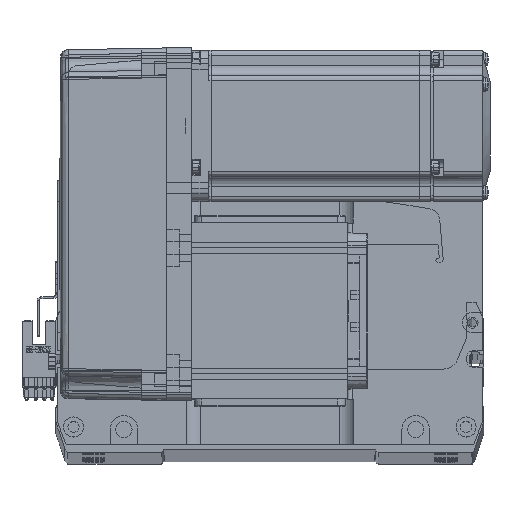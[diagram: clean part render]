
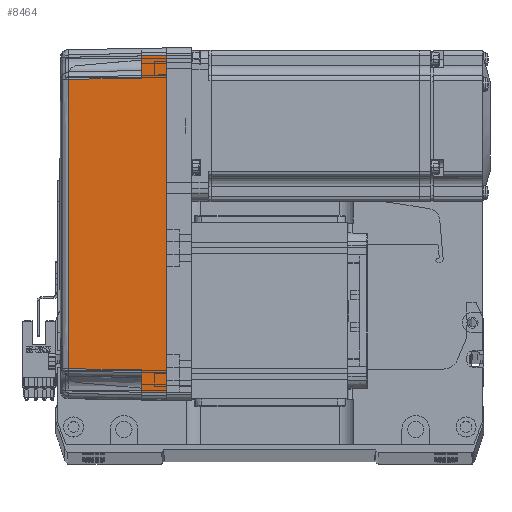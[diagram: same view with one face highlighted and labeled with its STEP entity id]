
A CAD part, top view. The second image highlights one B-rep face of the part: STEP entity #8464.
In plain terms, the highlighted planar face has unit normal (-0.018, 0, 1) as drawn and (0, 1, 0.017) by its records, which use the part's own axes.
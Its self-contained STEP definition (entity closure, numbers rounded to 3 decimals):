
#1021 = CARTESIAN_POINT ( 'NONE',  ( 57.495, 35.32, 38.985 ) ) ;
#3535 = VECTOR ( 'NONE', #17923, 1000. ) ;
#3735 = ORIENTED_EDGE ( 'NONE', *, *, #43531, .T. ) ;
#4238 = VECTOR ( 'NONE', #10058, 1000. ) ;
#4517 = LINE ( 'NONE', #1021, #60270 ) ;
#6146 = FACE_OUTER_BOUND ( 'NONE', #33613, .T. ) ;
#7294 = CARTESIAN_POINT ( 'NONE',  ( 67.001, 36.001, -0.052 ) ) ;
#7932 = DIRECTION ( 'NONE',  ( 0.017, -0.017, 1. ) ) ;
#8464 = ADVANCED_FACE ( 'NONE', ( #6146 ), #37962, .T. ) ;
#9661 = CARTESIAN_POINT ( 'NONE',  ( -66.826, 35.825, 10. ) ) ;
#10058 = DIRECTION ( 'NONE',  ( 1., 0., 0. ) ) ;
#11191 = LINE ( 'NONE', #53712, #12006 ) ;
#11933 = DIRECTION ( 'NONE',  ( 0.017, 0.017, -1. ) ) ;
#12006 = VECTOR ( 'NONE', #37356, 1000. ) ;
#12521 = VECTOR ( 'NONE', #28804, 1000. ) ;
#14169 = DIRECTION ( 'NONE',  ( 1., 0., 0. ) ) ;
#15502 = DIRECTION ( 'NONE',  ( 0., -0.017, 1. ) ) ;
#16221 = LINE ( 'NONE', #65437, #3535 ) ;
#16823 = CARTESIAN_POINT ( 'NONE',  ( 66.826, 35.825, 10. ) ) ;
#16922 = CARTESIAN_POINT ( 'NONE',  ( -57.495, 35.32, 38.985 ) ) ;
#17641 = VERTEX_POINT ( 'NONE', #31550 ) ;
#17923 = DIRECTION ( 'NONE',  ( 0.017, -0.017, 1. ) ) ;
#18602 = ORIENTED_EDGE ( 'NONE', *, *, #63375, .T. ) ;
#19764 = CARTESIAN_POINT ( 'NONE',  ( -58., 35.825, 10. ) ) ;
#19806 = VECTOR ( 'NONE', #7932, 1000. ) ;
#27132 = ORIENTED_EDGE ( 'NONE', *, *, #59556, .F. ) ;
#27857 = EDGE_CURVE ( 'NONE', #37725, #52881, #16221, .T. ) ;
#28412 = CARTESIAN_POINT ( 'NONE',  ( -67., 36., 0. ) ) ;
#28576 = ORIENTED_EDGE ( 'NONE', *, *, #34663, .F. ) ;
#28804 = DIRECTION ( 'NONE',  ( -0.017, -0.017, 1. ) ) ;
#30006 = CARTESIAN_POINT ( 'NONE',  ( 0., 36., 0. ) ) ;
#30511 = CARTESIAN_POINT ( 'NONE',  ( -57.495, 35.32, 38.985 ) ) ;
#30910 = ORIENTED_EDGE ( 'NONE', *, *, #27857, .T. ) ;
#31400 = ORIENTED_EDGE ( 'NONE', *, *, #42877, .T. ) ;
#31550 = CARTESIAN_POINT ( 'NONE',  ( 57.495, 35.32, 38.985 ) ) ;
#32287 = VECTOR ( 'NONE', #14169, 1000. ) ;
#33078 = VERTEX_POINT ( 'NONE', #28412 ) ;
#33613 = EDGE_LOOP ( 'NONE', ( #31400, #18602, #30910, #37971, #46073, #3735, #28576, #27132 ) ) ;
#34663 = EDGE_CURVE ( 'NONE', #68703, #42281, #55644, .T. ) ;
#37245 = CARTESIAN_POINT ( 'NONE',  ( 70., 36., 0. ) ) ;
#37356 = DIRECTION ( 'NONE',  ( 1., 0., 0. ) ) ;
#37725 = VERTEX_POINT ( 'NONE', #19764 ) ;
#37732 = CARTESIAN_POINT ( 'NONE',  ( 57.495, 35.32, 38.985 ) ) ;
#37962 = PLANE ( 'NONE',  #55725 ) ;
#37964 = CARTESIAN_POINT ( 'NONE',  ( -19.165, 35.316, 39.181 ) ) ;
#37971 = ORIENTED_EDGE ( 'NONE', *, *, #60141, .T. ) ;
#42281 = VERTEX_POINT ( 'NONE', #16823 ) ;
#42877 = EDGE_CURVE ( 'NONE', #33078, #67936, #62021, .T. ) ;
#43531 = EDGE_CURVE ( 'NONE', #55702, #42281, #11191, .T. ) ;
#44765 = CARTESIAN_POINT ( 'NONE',  ( 67., 36., 0. ) ) ;
#46073 = ORIENTED_EDGE ( 'NONE', *, *, #67017, .T. ) ;
#47313 = LINE ( 'NONE', #58030, #4238 ) ;
#47340 = CARTESIAN_POINT ( 'NONE',  ( 58., 35.825, 10. ) ) ;
#49216 = LINE ( 'NONE', #30006, #32287 ) ;
#52301 = B_SPLINE_CURVE_WITH_KNOTS ( 'NONE', 3,
 ( #16922, #37964, #64662, #37732 ),
 .UNSPECIFIED., .F., .F.,
 ( 4, 4 ),
 ( 0., 1. ),
 .UNSPECIFIED. ) ;
#52881 = VERTEX_POINT ( 'NONE', #30511 ) ;
#53712 = CARTESIAN_POINT ( 'NONE',  ( 70., 35.825, 10. ) ) ;
#55644 = LINE ( 'NONE', #7294, #12521 ) ;
#55702 = VERTEX_POINT ( 'NONE', #47340 ) ;
#55725 = AXIS2_PLACEMENT_3D ( 'NONE', #37245, #64906, #15502 ) ;
#58030 = CARTESIAN_POINT ( 'NONE',  ( 70., 35.825, 10. ) ) ;
#59556 = EDGE_CURVE ( 'NONE', #33078, #68703, #49216, .T. ) ;
#60141 = EDGE_CURVE ( 'NONE', #52881, #17641, #52301, .T. ) ;
#60270 = VECTOR ( 'NONE', #11933, 1000. ) ;
#62021 = LINE ( 'NONE', #62059, #19806 ) ;
#62059 = CARTESIAN_POINT ( 'NONE',  ( -67., 36., 0. ) ) ;
#63375 = EDGE_CURVE ( 'NONE', #67936, #37725, #47313, .T. ) ;
#64662 = CARTESIAN_POINT ( 'NONE',  ( 19.165, 35.316, 39.181 ) ) ;
#64906 = DIRECTION ( 'NONE',  ( 0., 1., 0.017 ) ) ;
#65437 = CARTESIAN_POINT ( 'NONE',  ( -58., 35.825, 10. ) ) ;
#67017 = EDGE_CURVE ( 'NONE', #17641, #55702, #4517, .T. ) ;
#67936 = VERTEX_POINT ( 'NONE', #9661 ) ;
#68703 = VERTEX_POINT ( 'NONE', #44765 ) ;
